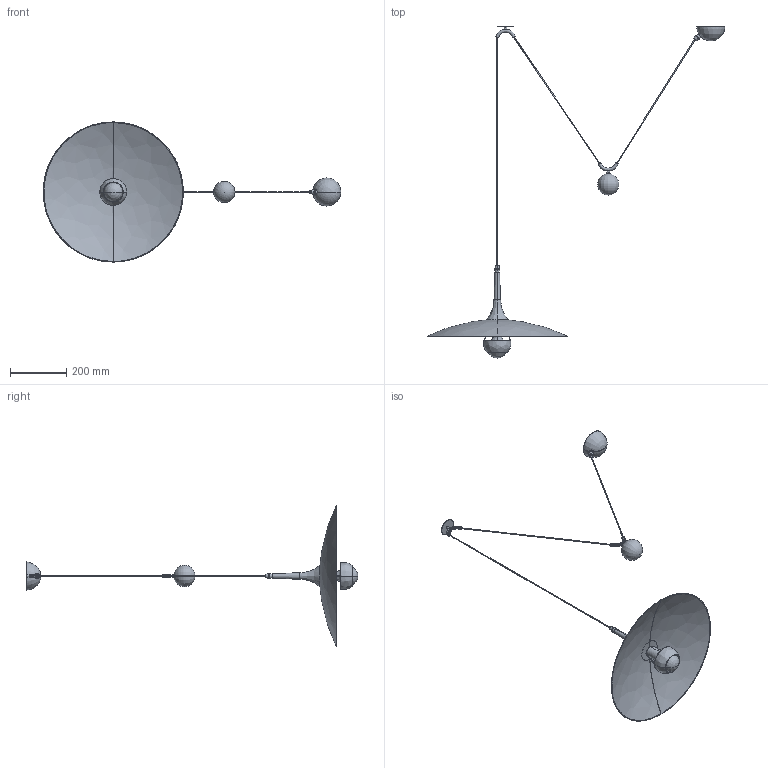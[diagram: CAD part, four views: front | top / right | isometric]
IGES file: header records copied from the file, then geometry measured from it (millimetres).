
Start section: SolidWorks IGES file using analytic representation for surfaces
Global section: file name: F:\燠隴矨\3D\2026-1\Onos Pendant Lamp-D50CM.IGS,15; native system: HSolidWorks 2022; preprocessor: SolidWorks 2022; author: MyPC; date: 260113.100752; units: millimetre
Bounding box: 1061.89 x 1184.41 x 500 mm (x, y, z)
Surface area: 599104.7 mm2 (no closed solid volume)
Topology: 0 solids, 0 shells, 132 faces, 2274 edges, 2267 vertices
Faces by surface type: bspline 66, revolution 66
